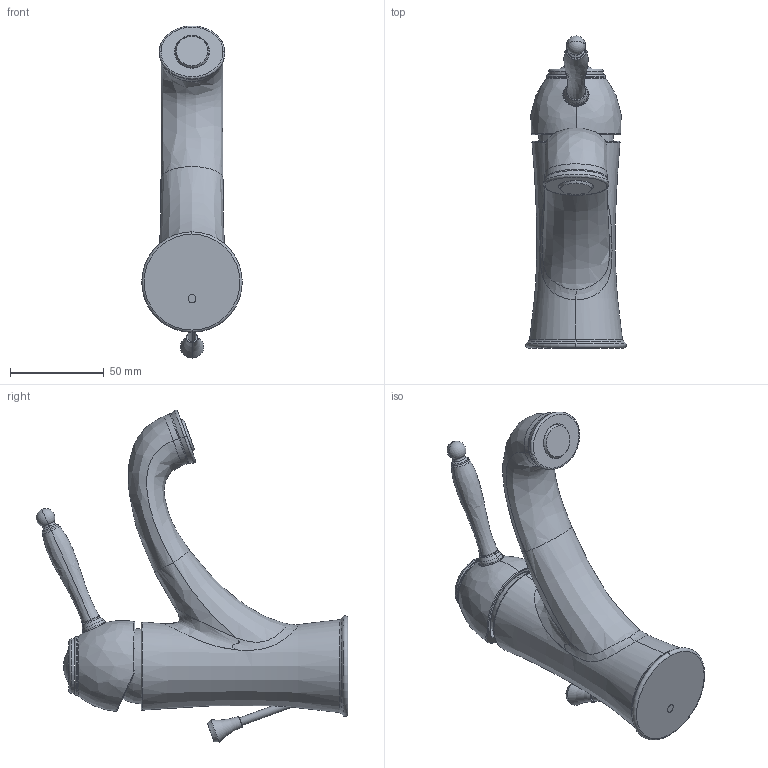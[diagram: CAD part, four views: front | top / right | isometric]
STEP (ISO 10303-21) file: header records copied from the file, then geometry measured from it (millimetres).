
FILE_DESCRIPTION((''),'2;1');
FILE_NAME('37821--_STEP_SW0001','2026-10-01T15:25:57',('simi1'),(''),'CREO PARAMETRIC BY PTC INC, 2022244','CREO PARAMETRIC BY PTC INC, 2022244','');
FILE_SCHEMA(('CONFIG_CONTROL_DESIGN'));
Length unit declared in the file: millimetre
Products named in the file (1): 37821--_STEP_SW0001
Bounding box: 53.49 x 165.99 x 176.74 mm (x, y, z)
Surface area: 48781.2 mm2 (no closed solid volume)
Topology: 0 solids, 33 shells, 239 faces, 1282 edges, 1040 vertices
Faces by surface type: bspline 94, plane 48, cylinder 34, torus 33, cone 12, sphere 10, revolution 6, extrusion 2
Entity records: 19752 total; most frequent: CARTESIAN_POINT 11062, ORIENTED_EDGE 1670, DIRECTION 1416, EDGE_CURVE 1278, VERTEX_POINT 1040, VECTOR 692, LINE 690, B_SPLINE_CURVE_WITH_KNOTS 374
